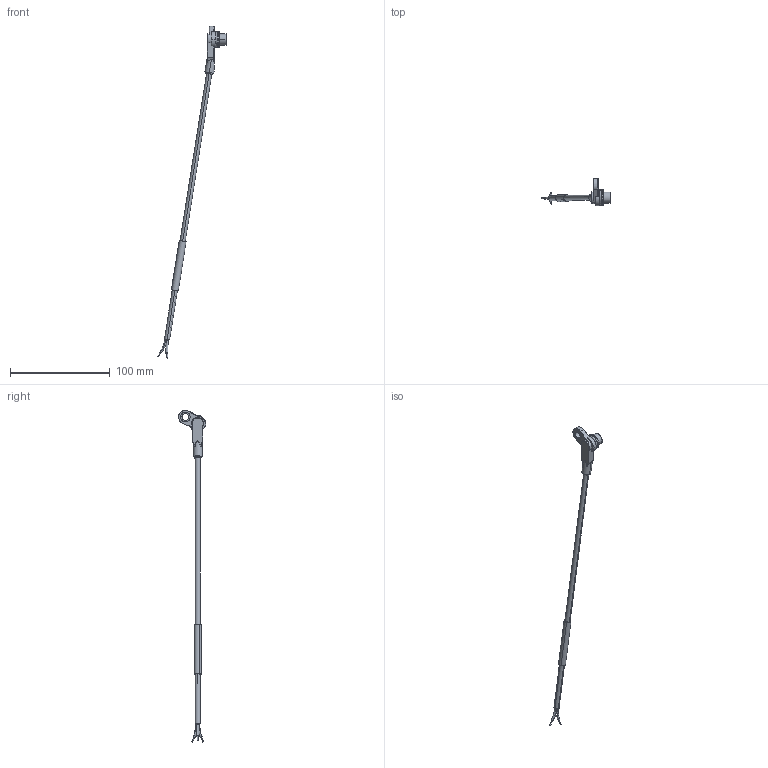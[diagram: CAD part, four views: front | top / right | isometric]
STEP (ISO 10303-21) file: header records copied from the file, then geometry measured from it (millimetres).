
FILE_DESCRIPTION(('CATIA V5 STEP Exchange'),'2;1');
FILE_NAME('\\bosch.com\dfsrb\DfsDE\DIV\BEG\MSD\Entwicklungsprojekte\Sensorik\03_Hardware\03_Sensoren\Datenbank\Speed_Sensors\F 02U V00 570-01\Mechanik\STP\F_02U_V00_570-01_Drehzahlsensor_Mini_HA-P_sealed.stp','2014-09-15T11:23:48+00:00',('none'),('none'),'CATIA Version 5 Release 19 SP 9 (IN-10)','CATIA V5 STEP AP214','none');
FILE_SCHEMA(('AUTOMOTIVE_DESIGN { 1 0 10303 214 1 1 1 1 }'));
Length unit declared in the file: millimetre
Products named in the file (4): F_02U_V00_570-01_Drehzahlsensor_Mini_HA-P_sealed; Drehzahlsensor_Mini_HA-P_sealed; O-Ring 12.42x1.78; Kabel_3_Leitungen
Assembly tree (3 placements, depth 2):
  F_02U_V00_570-01_Drehzahlsensor_Mini_HA-P_sealed
    Drehzahlsensor_Mini_HA-P_sealed
    O-Ring 12.42x1.78
    Kabel_3_Leitungen
Bounding box: 68.94 x 27.35 x 333.17 mm (x, y, z)
Volume: 10272.6 mm3; surface area: 16263.1 mm2
Topology: 3 solids, 3 shells, 139 faces, 329 edges, 197 vertices
Faces by surface type: cylinder 67, plane 35, torus 22, bspline 9, sphere 4, cone 2
Entity records: 5497 total; most frequent: CARTESIAN_POINT 2124, ORIENTED_EDGE 638, DIRECTION 456, EDGE_CURVE 319, AXIS2_PLACEMENT_3D 266, VERTEX_POINT 197, CIRCLE 176, EDGE_LOOP 159
